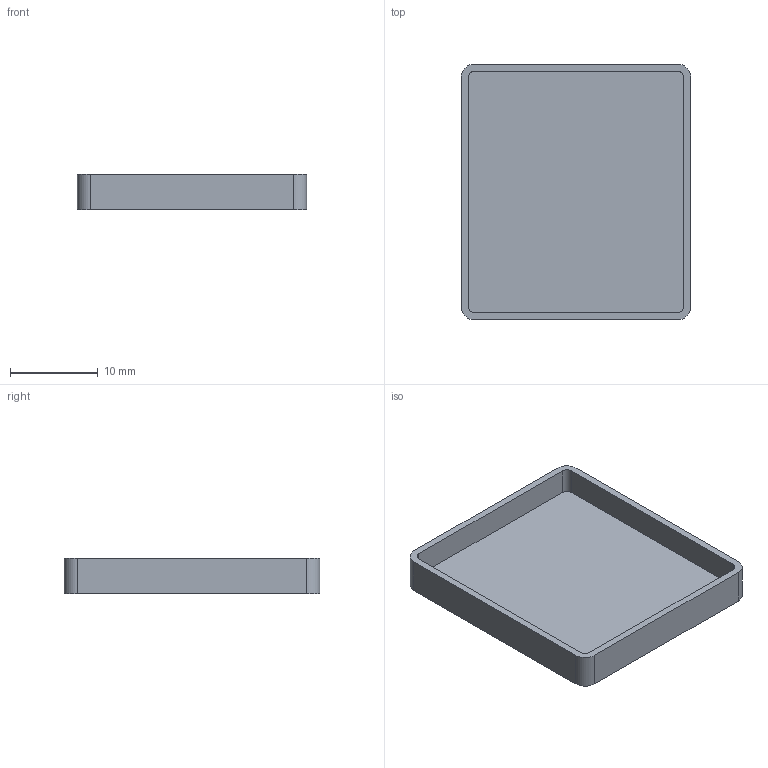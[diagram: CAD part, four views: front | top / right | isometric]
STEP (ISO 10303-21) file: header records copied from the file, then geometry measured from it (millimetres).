
FILE_DESCRIPTION(('Open CASCADE Model'),'2;1');
FILE_NAME('Open CASCADE Shape Model','2026-10-27T13:08:00',('Author'),( 'Open CASCADE'),'Open CASCADE STEP processor 7.9','Open CASCADE 7.9' ,'Unknown');
FILE_SCHEMA(('AUTOMOTIVE_DESIGN { 1 0 10303 214 1 1 1 1 }'));
Length unit declared in the file: millimetre
Products named in the file (1): Open CASCADE STEP translator 7.9 1
Bounding box: 26.1 x 29.1 x 4 mm (x, y, z)
Volume: 1010.3 mm3; surface area: 2254.9 mm2
Topology: 1 solids, 1 shells, 19 faces, 48 edges, 32 vertices
Faces by surface type: plane 11, cylinder 8
Entity records: 1222 total; most frequent: CARTESIAN_POINT 240, DIRECTION 186, LINE 104, VECTOR 104, ORIENTED_EDGE 96, PCURVE 96, DEFINITIONAL_REPRESENTATION 96, EDGE_CURVE 48
